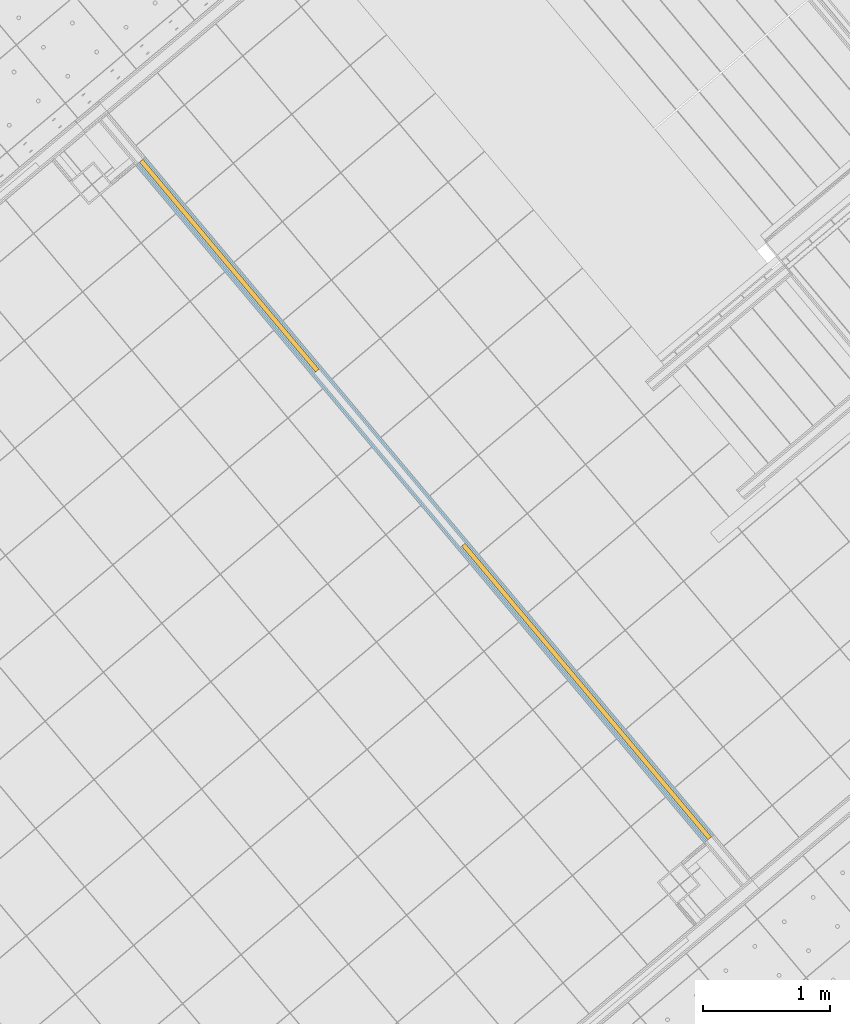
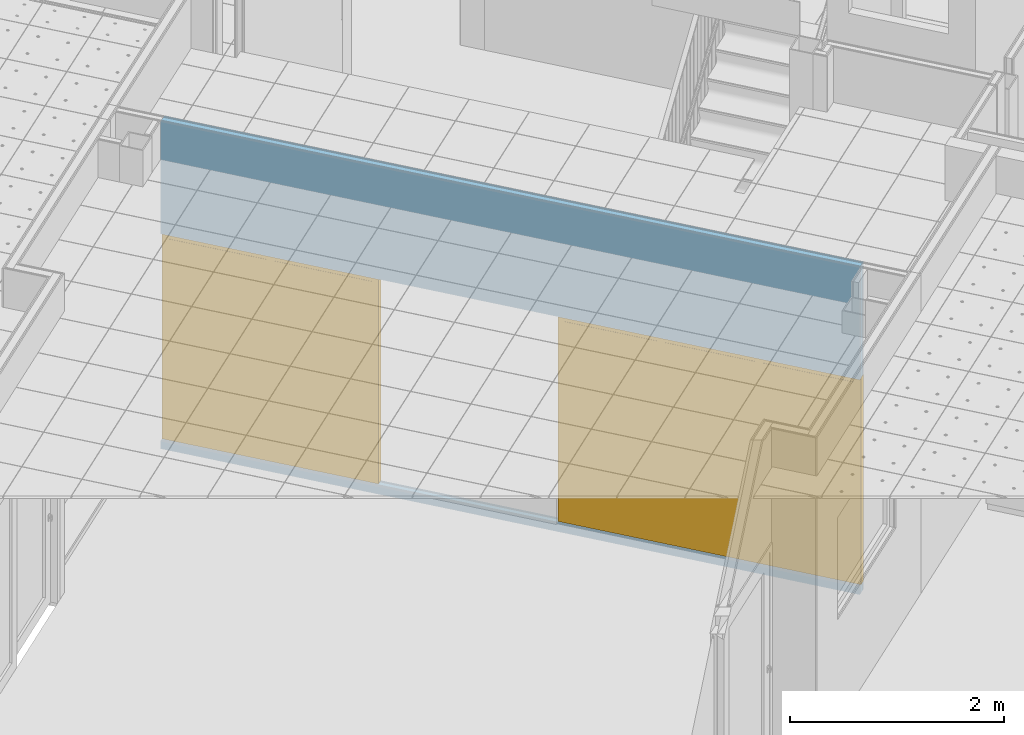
# One storey, part 61 of 338: 2 windows, 3 openings, 1 element without a shape of its own, plus 5 elements that do not belong to this part.
"""IFC2X3 building model written with IfcOpenShell, lengths in millimetres."""

from ifc_helpers import new_model, entity, si_unit, converted_unit, derived_unit, money_unit, direction, frame, origin_with_axes, place, context, subcontext, project, spatial, open_shell, faceted_brep, surface_model, material, type_object, element, fill, aggregate, save


model = new_model("IFC2X3")

# Units and contexts
model_context = context("Model", 3, precision=0.01, world=origin_with_axes(), true_north=direction((0.0, 1.0)))
plan_context = context("Plan", 3, precision=0.01, world=origin_with_axes(), true_north=direction((0.0, 1.0)))
body_context = subcontext(model_context, "Body", "Model", "MODEL_VIEW")
ifc_project = project(units=[si_unit("LENGTHUNIT", "METRE", prefix="MILLI"), si_unit("AREAUNIT", "SQUARE_METRE"), si_unit("VOLUMEUNIT", "CUBIC_METRE"), converted_unit("PLANEANGLEUNIT", "DEGREE", entity("IfcPlaneAngleMeasure", 0.0174532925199), si_unit("PLANEANGLEUNIT", "RADIAN"), dimensions=[0, 0, 0, 0, 0, 0, 0]), money_unit("EUR"), converted_unit("TIMEUNIT", "Year", entity("IfcTimeMeasure", 31556926.0), si_unit("TIMEUNIT", "SECOND"), dimensions=[0, 0, 1, 0, 0, 0, 0]), si_unit("MASSUNIT", "GRAM", prefix="KILO"), si_unit("THERMODYNAMICTEMPERATUREUNIT", "DEGREE_CELSIUS"), si_unit("LUMINOUSINTENSITYUNIT", "LUMEN"), si_unit("ENERGYUNIT", "JOULE", prefix="MEGA"), derived_unit("THERMALCONDUCTANCEUNIT", [(si_unit("POWERUNIT", "WATT"), 1), (si_unit("LENGTHUNIT", "METRE"), -1), (si_unit("THERMODYNAMICTEMPERATUREUNIT", "KELVIN"), -1)]), derived_unit("SPECIFICHEATCAPACITYUNIT", [(si_unit("ENERGYUNIT", "JOULE"), 1), (si_unit("MASSUNIT", "GRAM", prefix="KILO"), -1), (si_unit("THERMODYNAMICTEMPERATUREUNIT", "KELVIN"), -1)]), derived_unit("MASSDENSITYUNIT", [(si_unit("MASSUNIT", "GRAM", prefix="KILO"), 1), (si_unit("VOLUMEUNIT", "CUBIC_METRE"), -1)])], contexts=[model_context, plan_context])

# Site, building, storey
site_placement = place(None, origin_with_axes())
site = spatial("IfcSite", under=ifc_project, at=site_placement, Name="Fortuinstraat Woensdrecht", CompositionType="ELEMENT")
building_placement = place(site_placement, origin_with_axes())
building = spatial("IfcBuilding", under=site, at=building_placement, Name="IKC Fortuna", CompositionType="ELEMENT")
storey_placement = place(building_placement, origin_with_axes())
storey = spatial("IfcBuildingStorey", under=building, at=storey_placement, Name="00 begane grond", CompositionType="ELEMENT", Elevation=0.0)

# Window
window_style_1 = type_object("IfcWindowStyle", Name="Rnx horizontaal 25", ConstructionType="NOTDEFINED", OperationType="DOUBLE_PANEL_VERTICAL", ParameterTakesPrecedence=False, Sizeable=False)
wall_placement = place(storey_placement, frame((19252.4628668, -2704.22469748, 1360.0), z_axis=(0.0, 0.0, 1.0), x_axis=(-0.642787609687, 0.766044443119, 0.0)))
opening_1_placement = place(wall_placement, frame((5886.46009833, 0.0, 90.0), z_axis=(0.0, 0.0, 1.0), x_axis=(1.0, 0.0, 0.0)))
window_1_placement = place(opening_1_placement, frame((1078.84079083, 0.0, 0.0), z_axis=(0.0, 0.0, 1.0), x_axis=(-1.0, 0.0, 0.0)))
window_1 = element("IfcWindow", 1, at=window_1_placement, inside=storey, type_object=window_style_1, Name="32_Raam_h.09", ObjectType="WINDOW", OverallHeight=2367.0, OverallWidth=2157.68, context=body_context, shape_type="SurfaceModel", body=[
    faceted_brep([(67.0, -62.0, 2300.0), (67.0, 0.0, 2300.0), (0.0, 0.0, 2300.0), (0.0, -62.0, 2300.0), (67.0, -62.0, 67.0), (67.0, 0.0, 67.0), (0.0, 0.0, 67.0), (0.0, -62.0, 67.0)], [[[0, 1, 2, 3]], [[4, 5, 1, 0]], [[1, 5, 6, 2]], [[3, 2, 6, 7]], [[0, 3, 7, 4]], [[7, 6, 5, 4]]]),
    faceted_brep([(2090.68158166, -62.0, 67.0), (2090.68158166, 0.0, 67.0), (2157.68158166, 0.0, 67.0), (2157.68158166, -62.0, 67.0), (2090.68158166, -62.0, 2300.0), (2090.68158166, 0.0, 2300.0), (2157.68158166, 0.0, 2300.0), (2157.68158166, -62.0, 2300.0)], [[[0, 1, 2, 3]], [[4, 5, 1, 0]], [[1, 5, 6, 2]], [[3, 2, 6, 7]], [[0, 3, 7, 4]], [[7, 6, 5, 4]]]),
    faceted_brep([(2090.68158166, -62.0, 2300.0), (2090.68158166, 0.0, 2300.0), (2157.68158166, 0.0, 2300.0), (2157.68158166, -62.0, 2300.0), (1112.34079083, -62.0, 2300.0), (1112.34079083, 0.0, 2300.0), (1045.34079083, 0.0, 2300.0), (67.0, 0.0, 2300.0), (0.0, 0.0, 2300.0), (0.0, 0.0, 2367.0), (2157.68158166, 0.0, 2367.0), (2157.68158166, -62.0, 2367.0), (0.0, -62.0, 2367.0), (0.0, -62.0, 2300.0), (67.0, -62.0, 2300.0), (1045.34079083, -62.0, 2300.0)], [[[0, 1, 2, 3]], [[4, 5, 1, 0]], [[1, 5, 6, 7, 8, 9, 10, 2]], [[3, 2, 10, 11]], [[0, 3, 11, 12, 13, 14, 15, 4]], [[15, 6, 5, 4]], [[14, 7, 6, 15]], [[13, 8, 7, 14]], [[12, 9, 8, 13]], [[11, 10, 9, 12]]]),
    faceted_brep([(1112.34079083, -62.0, 67.0), (1112.34079083, 0.0, 67.0), (1045.34079083, 0.0, 67.0), (1045.34079083, -62.0, 67.0), (2090.68158166, -62.0, 67.0), (2090.68158166, 0.0, 67.0), (2157.68158166, 0.0, 67.0), (2157.68158166, 0.0, 0.0), (0.0, 0.0, 0.0), (0.0, 0.0, 67.0), (67.0, 0.0, 67.0), (67.0, -62.0, 67.0), (0.0, -62.0, 67.0), (0.0, -62.0, 0.0), (2157.68158166, -62.0, 0.0), (2157.68158166, -62.0, 67.0)], [[[0, 1, 2, 3]], [[4, 5, 1, 0]], [[1, 5, 6, 7, 8, 9, 10, 2]], [[3, 2, 10, 11]], [[0, 3, 11, 12, 13, 14, 15, 4]], [[15, 6, 5, 4]], [[14, 7, 6, 15]], [[13, 8, 7, 14]], [[12, 9, 8, 13]], [[11, 10, 9, 12]]]),
    faceted_brep([(1112.34079083, -62.0, 67.0), (1112.34079083, 0.0, 67.0), (1112.34079083, 0.0, 2300.0), (1112.34079083, -62.0, 2300.0), (1045.34079083, -62.0, 67.0), (1045.34079083, 0.0, 67.0), (1045.34079083, 0.0, 2300.0), (1045.34079083, -62.0, 2300.0)], [[[0, 1, 2, 3]], [[4, 5, 1, 0]], [[1, 5, 6, 2]], [[3, 2, 6, 7]], [[0, 3, 7, 4]], [[7, 6, 5, 4]]]),
    surface_model("IfcShellBasedSurfaceModel", [(67.0, -64.0, 67.0), (1045.34079083, -64.0, 67.0), (1045.34079083, -64.0, 2300.0), (67.0, -64.0, 2300.0)], [open_shell([[[0, 1, 2, 3]]])]),
    surface_model("IfcShellBasedSurfaceModel", [(67.0, -44.0, 67.0), (67.0, -44.0, 2300.0), (1045.34079083, -44.0, 2300.0), (1045.34079083, -44.0, 67.0)], [open_shell([[[0, 1, 2, 3]]])]),
    surface_model("IfcShellBasedSurfaceModel", [(1112.34079083, -64.0, 67.0), (2090.68158166, -64.0, 67.0), (2090.68158166, -64.0, 2300.0), (1112.34079083, -64.0, 2300.0)], [open_shell([[[0, 1, 2, 3]]])]),
    surface_model("IfcShellBasedSurfaceModel", [(1112.34079083, -44.0, 67.0), (1112.34079083, -44.0, 2300.0), (2090.68158166, -44.0, 2300.0), (2090.68158166, -44.0, 67.0)], [open_shell([[[0, 1, 2, 3]]])]),
])

window_style_2 = type_object("IfcWindowStyle", Name="Rnx horizontaal 25", ConstructionType="NOTDEFINED", OperationType="TRIPLE_PANEL_VERTICAL", ParameterTakesPrecedence=False, Sizeable=False)
opening_2_placement = place(wall_placement, frame((1508.80965375, 0.0, 90.0), z_axis=(0.0, 0.0, 1.0), x_axis=(1.0, 0.0, 0.0)))
window_2_placement = place(opening_2_placement, frame((1508.80965375, 0.0, 0.0), z_axis=(0.0, 0.0, 1.0), x_axis=(-1.0, 0.0, 0.0)))
window_2 = element("IfcWindow", 2, at=window_2_placement, inside=storey, type_object=window_style_2, Name="32_Raam_h.07", ObjectType="WINDOW", OverallHeight=2367.0, OverallWidth=3017.62, context=body_context, shape_type="SurfaceModel", body=[
    faceted_brep([(67.0, -62.0, 2300.0), (67.0, 0.0, 2300.0), (0.0, 0.0, 2300.0), (0.0, -62.0, 2300.0), (67.0, -62.0, 67.0), (67.0, 0.0, 67.0), (0.0, 0.0, 67.0), (0.0, -62.0, 67.0)], [[[0, 1, 2, 3]], [[4, 5, 1, 0]], [[1, 5, 6, 2]], [[3, 2, 6, 7]], [[0, 3, 7, 4]], [[7, 6, 5, 4]]]),
    faceted_brep([(2950.6193075, -62.0, 67.0), (2950.6193075, 0.0, 67.0), (3017.6193075, 0.0, 67.0), (3017.6193075, -62.0, 67.0), (2950.6193075, -62.0, 2300.0), (2950.6193075, 0.0, 2300.0), (3017.6193075, 0.0, 2300.0), (3017.6193075, -62.0, 2300.0)], [[[0, 1, 2, 3]], [[4, 5, 1, 0]], [[1, 5, 6, 2]], [[3, 2, 6, 7]], [[0, 3, 7, 4]], [[7, 6, 5, 4]]]),
    faceted_brep([(2950.6193075, -62.0, 2300.0), (2950.6193075, 0.0, 2300.0), (3017.6193075, 0.0, 2300.0), (3017.6193075, -62.0, 2300.0), (2034.07953833, -62.0, 2300.0), (2034.07953833, 0.0, 2300.0), (1967.07953833, 0.0, 2300.0), (1050.53976917, 0.0, 2300.0), (983.539769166, 0.0, 2300.0), (67.0, 0.0, 2300.0), (0.0, 0.0, 2300.0), (0.0, 0.0, 2367.0), (3017.6193075, 0.0, 2367.0), (3017.6193075, -62.0, 2367.0), (0.0, -62.0, 2367.0), (0.0, -62.0, 2300.0), (67.0, -62.0, 2300.0), (983.539769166, -62.0, 2300.0), (1050.53976917, -62.0, 2300.0), (1967.07953833, -62.0, 2300.0)], [[[0, 1, 2, 3]], [[4, 5, 1, 0]], [[1, 5, 6, 7, 8, 9, 10, 11, 12, 2]], [[3, 2, 12, 13]], [[0, 3, 13, 14, 15, 16, 17, 18, 19, 4]], [[19, 6, 5, 4]], [[18, 7, 6, 19]], [[17, 8, 7, 18]], [[16, 9, 8, 17]], [[15, 10, 9, 16]], [[14, 11, 10, 15]], [[13, 12, 11, 14]]]),
    faceted_brep([(2034.07953833, -62.0, 67.0), (2034.07953833, 0.0, 67.0), (1967.07953833, 0.0, 67.0), (1967.07953833, -62.0, 67.0), (2950.6193075, -62.0, 67.0), (2950.6193075, 0.0, 67.0), (3017.6193075, 0.0, 67.0), (3017.6193075, 0.0, 0.0), (0.0, 0.0, 0.0), (0.0, 0.0, 67.0), (67.0, 0.0, 67.0), (983.539769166, 0.0, 67.0), (1050.53976917, 0.0, 67.0), (1050.53976917, -62.0, 67.0), (983.539769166, -62.0, 67.0), (67.0, -62.0, 67.0), (0.0, -62.0, 67.0), (0.0, -62.0, 0.0), (3017.6193075, -62.0, 0.0), (3017.6193075, -62.0, 67.0)], [[[0, 1, 2, 3]], [[4, 5, 1, 0]], [[1, 5, 6, 7, 8, 9, 10, 11, 12, 2]], [[3, 2, 12, 13]], [[0, 3, 13, 14, 15, 16, 17, 18, 19, 4]], [[19, 6, 5, 4]], [[18, 7, 6, 19]], [[17, 8, 7, 18]], [[16, 9, 8, 17]], [[15, 10, 9, 16]], [[14, 11, 10, 15]], [[13, 12, 11, 14]]]),
    faceted_brep([(1050.53976917, -62.0, 67.0), (1050.53976917, 0.0, 67.0), (1050.53976917, 0.0, 2300.0), (1050.53976917, -62.0, 2300.0), (983.539769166, -62.0, 67.0), (983.539769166, 0.0, 67.0), (983.539769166, 0.0, 2300.0), (983.539769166, -62.0, 2300.0)], [[[0, 1, 2, 3]], [[4, 5, 1, 0]], [[1, 5, 6, 2]], [[3, 2, 6, 7]], [[0, 3, 7, 4]], [[7, 6, 5, 4]]]),
    faceted_brep([(2034.07953833, -62.0, 67.0), (2034.07953833, 0.0, 67.0), (2034.07953833, 0.0, 2300.0), (2034.07953833, -62.0, 2300.0), (1967.07953833, -62.0, 67.0), (1967.07953833, 0.0, 67.0), (1967.07953833, 0.0, 2300.0), (1967.07953833, -62.0, 2300.0)], [[[0, 1, 2, 3]], [[4, 5, 1, 0]], [[1, 5, 6, 2]], [[3, 2, 6, 7]], [[0, 3, 7, 4]], [[7, 6, 5, 4]]]),
    surface_model("IfcShellBasedSurfaceModel", [(67.0, -64.0, 67.0), (983.539769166, -64.0, 67.0), (983.539769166, -64.0, 2300.0), (67.0, -64.0, 2300.0)], [open_shell([[[0, 1, 2, 3]]])]),
    surface_model("IfcShellBasedSurfaceModel", [(67.0, -44.0, 67.0), (67.0, -44.0, 2300.0), (983.539769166, -44.0, 2300.0), (983.539769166, -44.0, 67.0)], [open_shell([[[0, 1, 2, 3]]])]),
    surface_model("IfcShellBasedSurfaceModel", [(1050.53976917, -64.0, 67.0), (1967.07953833, -64.0, 67.0), (1967.07953833, -64.0, 2300.0), (1050.53976917, -64.0, 2300.0)], [open_shell([[[0, 1, 2, 3]]])]),
    surface_model("IfcShellBasedSurfaceModel", [(1050.53976917, -44.0, 67.0), (1050.53976917, -44.0, 2300.0), (1967.07953833, -44.0, 2300.0), (1967.07953833, -44.0, 67.0)], [open_shell([[[0, 1, 2, 3]]])]),
    surface_model("IfcShellBasedSurfaceModel", [(2034.07953833, -64.0, 67.0), (2950.6193075, -64.0, 67.0), (2950.6193075, -64.0, 2300.0), (2034.07953833, -64.0, 2300.0)], [open_shell([[[0, 1, 2, 3]]])]),
    surface_model("IfcShellBasedSurfaceModel", [(2034.07953833, -44.0, 67.0), (2034.07953833, -44.0, 2300.0), (2950.6193075, -44.0, 2300.0), (2950.6193075, -44.0, 67.0)], [open_shell([[[0, 1, 2, 3]]])]),
])

# Wall, opening
wall_type = type_object("IfcWallType", Name="MS100 2.50.2A 100", PredefinedType="NOTDEFINED")
wall = element("IfcWall", 3, at=wall_placement, inside=storey, type_object=wall_type, Name="22_Wand_Binnenwand")
opening_1 = element("IfcOpeningElement", 4, at=opening_1_placement, cuts=wall, Name="32_Raam_h.09", context=body_context, shape_type="Brep", body=[
    faceted_brep([(-1078.84079083, 100.0, 2367.0), (-1078.84079083, 100.0, 0.0), (-1078.84079083, -200.0, 0.0), (-1078.84079083, -200.0, 2367.0), (1078.84079083, 100.0, 2367.0), (1078.84079083, 100.0, 0.0), (1078.84079083, -200.0, 0.0), (1078.84079083, -200.0, 2367.0)], [[[0, 1, 2, 3]], [[0, 4, 5, 1]], [[1, 5, 6, 2]], [[3, 2, 6, 7]], [[4, 0, 3, 7]], [[5, 4, 7, 6]]]),
])

fill(opening_1, window_1)

# Opening
opening_2 = element("IfcOpeningElement", 5, at=opening_2_placement, cuts=wall, Name="32_Raam_h.07", context=body_context, shape_type="Brep", body=[
    faceted_brep([(-1508.80965375, 100.0, 2367.0), (-1508.80965375, 100.0, 0.0), (-1508.80965375, -200.0, 0.0), (-1508.80965375, -200.0, 2367.0), (1508.80965375, 100.0, 2367.0), (1508.80965375, 100.0, 0.0), (1508.80965375, -200.0, 0.0), (1508.80965375, -200.0, 2367.0)], [[[0, 1, 2, 3]], [[0, 4, 5, 1]], [[1, 5, 6, 2]], [[3, 2, 6, 7]], [[4, 0, 3, 7]], [[5, 4, 7, 6]]]),
])

fill(opening_2, window_2)

opening_3_placement = place(wall_placement, frame((3912.6193075, 0.0, 90.0), z_axis=(0.0, 0.0, 1.0), x_axis=(1.0, 0.0, 0.0)))
element("IfcOpeningElement", 6, at=opening_3_placement, cuts=wall, Name="32_Deur_h.08", context=body_context, shape_type="Brep", body=[
    faceted_brep([(895.0, -100.0, 2367.0), (895.0, -100.0, 0.0), (895.0, 214.0, 0.0), (895.0, 214.0, 2367.0), (-895.0, -100.0, 2367.0), (-895.0, -100.0, 0.0), (-895.0, 214.0, 0.0), (-895.0, 214.0, 2367.0)], [[[0, 1, 2, 3]], [[0, 4, 5, 1]], [[1, 5, 6, 2]], [[3, 2, 6, 7]], [[4, 0, 3, 7]], [[5, 4, 7, 6]]]),
])

# Building element part
ifc_material_1 = material(Name="Gipsplaat")
building_element_part_1_placement = place(wall_placement, origin_with_axes())
building_element_part_1 = element("IfcBuildingElementPart", 7, at=building_element_part_1_placement, material=ifc_material_1, Name="Gipsplaat", context=body_context, shape_type="Brep", body=[
    faceted_brep([(4807.6193075, 87.5, 90.0), (3017.6193075, 87.5, 90.0), (0.0, 87.5, 90.0), (0.0, 87.5, 0.0), (6965.30088915, 87.5, 0.0), (6965.30088915, 87.5, 90.0), (4807.6193075, 100.0, 90.0), (3017.6193075, 100.0, 90.0), (0.0, 100.0, 90.0), (6965.30088915, 100.0, 90.0), (0.0, 100.0, 0.0), (6965.30088915, 100.0, 0.0)], [[[0, 1, 2, 3, 4, 5]], [[6, 7, 8, 2, 1, 0, 5, 9]], [[8, 10, 3, 2]], [[4, 3, 10, 11]], [[4, 11, 9, 5]], [[7, 6, 9, 11, 10, 8]]]),
    faceted_brep([(3017.6193075, 100.0, 2457.0), (4807.6193075, 100.0, 2457.0), (6965.30088915, 100.0, 2457.0), (6965.30088915, 87.5, 2457.0), (4807.6193075, 87.5, 2457.0), (3017.6193075, 87.5, 2457.0), (0.0, 87.5, 2457.0), (0.0, 100.0, 2457.0), (0.0, 100.0, 3740.0), (6965.30088915, 100.0, 3740.0), (6965.30088915, 87.5, 3740.0), (0.0, 87.5, 3740.0)], [[[0, 1, 2, 3, 4, 5, 6, 7]], [[1, 0, 7, 8, 9, 2]], [[9, 10, 3, 2]], [[5, 4, 3, 10, 11, 6]], [[6, 11, 8, 7]], [[9, 8, 11, 10]]]),
])

building_element_part_2_placement = place(wall_placement, origin_with_axes())
building_element_part_2 = element("IfcBuildingElementPart", 8, at=building_element_part_2_placement, material=ifc_material_1, Name="Gipsplaat", context=body_context, shape_type="Brep", body=[
    faceted_brep([(4807.6193075, 75.0, 90.0), (3017.6193075, 75.0, 90.0), (0.0, 75.0, 90.0), (0.0, 75.0, 0.0), (6965.30088915, 75.0, 0.0), (6965.30088915, 75.0, 90.0), (4807.6193075, 87.5, 90.0), (3017.6193075, 87.5, 90.0), (0.0, 87.5, 90.0), (6965.30088915, 87.5, 90.0), (0.0, 87.5, 0.0), (6965.30088915, 87.5, 0.0)], [[[0, 1, 2, 3, 4, 5]], [[6, 7, 8, 2, 1, 0, 5, 9]], [[8, 10, 3, 2]], [[4, 3, 10, 11]], [[4, 11, 9, 5]], [[7, 6, 9, 11, 10, 8]]]),
    faceted_brep([(3017.6193075, 87.5, 2457.0), (4807.6193075, 87.5, 2457.0), (6965.30088915, 87.5, 2457.0), (6965.30088915, 75.0, 2457.0), (4807.6193075, 75.0, 2457.0), (3017.6193075, 75.0, 2457.0), (0.0, 75.0, 2457.0), (0.0, 87.5, 2457.0), (0.0, 87.5, 3740.0), (6965.30088915, 87.5, 3740.0), (6965.30088915, 75.0, 3740.0), (0.0, 75.0, 3740.0)], [[[0, 1, 2, 3, 4, 5, 6, 7]], [[1, 0, 7, 8, 9, 2]], [[9, 10, 3, 2]], [[5, 4, 3, 10, 11, 6]], [[6, 11, 8, 7]], [[9, 8, 11, 10]]]),
])

ifc_material_2 = material(Name="Isolatie - Steenwol LSW")
building_element_part_3_placement = place(wall_placement, origin_with_axes())
building_element_part_3 = element("IfcBuildingElementPart", 9, at=building_element_part_3_placement, material=ifc_material_2, Name="Isolatie - Steenwol LSW", context=body_context, shape_type="Brep", body=[
    faceted_brep([(4807.6193075, 25.0, 90.0), (3017.6193075, 25.0, 90.0), (0.0, 25.0, 90.0), (0.0, 25.0, 0.0), (6965.30088915, 25.0, 0.0), (6965.30088915, 25.0, 90.0), (4807.6193075, 75.0, 90.0), (3017.6193075, 75.0, 90.0), (0.0, 75.0, 90.0), (6965.30088915, 75.0, 90.0), (0.0, 75.0, 0.0), (6965.30088915, 75.0, 0.0)], [[[0, 1, 2, 3, 4, 5]], [[6, 7, 8, 2, 1, 0, 5, 9]], [[8, 10, 3, 2]], [[4, 3, 10, 11]], [[4, 11, 9, 5]], [[7, 6, 9, 11, 10, 8]]]),
    faceted_brep([(3017.6193075, 75.0, 2457.0), (4807.6193075, 75.0, 2457.0), (6965.30088915, 75.0, 2457.0), (6965.30088915, 25.0, 2457.0), (4807.6193075, 25.0, 2457.0), (3017.6193075, 25.0, 2457.0), (0.0, 25.0, 2457.0), (0.0, 75.0, 2457.0), (0.0, 75.0, 3740.0), (6965.30088915, 75.0, 3740.0), (6965.30088915, 25.0, 3740.0), (0.0, 25.0, 3740.0)], [[[0, 1, 2, 3, 4, 5, 6, 7]], [[1, 0, 7, 8, 9, 2]], [[9, 10, 3, 2]], [[5, 4, 3, 10, 11, 6]], [[6, 11, 8, 7]], [[9, 8, 11, 10]]]),
])

building_element_part_4_placement = place(wall_placement, origin_with_axes())
building_element_part_4 = element("IfcBuildingElementPart", 10, at=building_element_part_4_placement, material=ifc_material_1, Name="Gipsplaat", context=body_context, shape_type="Brep", body=[
    faceted_brep([(4807.6193075, 12.5, 90.0), (3017.6193075, 12.5, 90.0), (0.0, 12.5, 90.0), (0.0, 12.5, 0.0), (6965.30088915, 12.5, 0.0), (6965.30088915, 12.5, 90.0), (4807.6193075, 25.0, 90.0), (3017.6193075, 25.0, 90.0), (0.0, 25.0, 90.0), (6965.30088915, 25.0, 90.0), (0.0, 25.0, 0.0), (6965.30088915, 25.0, 0.0)], [[[0, 1, 2, 3, 4, 5]], [[6, 7, 8, 2, 1, 0, 5, 9]], [[8, 10, 3, 2]], [[4, 3, 10, 11]], [[4, 11, 9, 5]], [[7, 6, 9, 11, 10, 8]]]),
    faceted_brep([(3017.6193075, 25.0, 2457.0), (4807.6193075, 25.0, 2457.0), (6965.30088915, 25.0, 2457.0), (6965.30088915, 12.5, 2457.0), (4807.6193075, 12.5, 2457.0), (3017.6193075, 12.5, 2457.0), (0.0, 12.5, 2457.0), (0.0, 25.0, 2457.0), (0.0, 25.0, 3740.0), (6965.30088915, 25.0, 3740.0), (6965.30088915, 12.5, 3740.0), (0.0, 12.5, 3740.0)], [[[0, 1, 2, 3, 4, 5, 6, 7]], [[1, 0, 7, 8, 9, 2]], [[9, 10, 3, 2]], [[5, 4, 3, 10, 11, 6]], [[6, 11, 8, 7]], [[9, 8, 11, 10]]]),
])

building_element_part_5_placement = place(wall_placement, origin_with_axes())
building_element_part_5 = element("IfcBuildingElementPart", 11, at=building_element_part_5_placement, material=ifc_material_1, Name="Gipsplaat", context=body_context, shape_type="Brep", body=[
    faceted_brep([(4807.6193075, 0.0, 90.0), (3017.6193075, 0.0, 90.0), (0.0, 0.0, 90.0), (0.0, 0.0, 0.0), (6965.30088915, 0.0, 0.0), (6965.30088915, 0.0, 90.0), (4807.6193075, 12.5, 90.0), (3017.6193075, 12.5, 90.0), (0.0, 12.5, 90.0), (6965.30088915, 12.5, 90.0), (0.0, 12.5, 0.0), (6965.30088915, 12.5, 0.0)], [[[0, 1, 2, 3, 4, 5]], [[6, 7, 8, 2, 1, 0, 5, 9]], [[8, 10, 3, 2]], [[4, 3, 10, 11]], [[4, 11, 9, 5]], [[7, 6, 9, 11, 10, 8]]]),
    faceted_brep([(3017.6193075, 12.5, 2457.0), (4807.6193075, 12.5, 2457.0), (6965.30088915, 12.5, 2457.0), (6965.30088915, 0.0, 2457.0), (4807.6193075, 0.0, 2457.0), (3017.6193075, 0.0, 2457.0), (0.0, 0.0, 2457.0), (0.0, 12.5, 2457.0), (0.0, 12.5, 3740.0), (6965.30088915, 12.5, 3740.0), (6965.30088915, 0.0, 3740.0), (0.0, 0.0, 3740.0)], [[[0, 1, 2, 3, 4, 5, 6, 7]], [[1, 0, 7, 8, 9, 2]], [[9, 10, 3, 2]], [[5, 4, 3, 10, 11, 6]], [[6, 11, 8, 7]], [[9, 8, 11, 10]]]),
])

aggregate(wall, [building_element_part_1, building_element_part_2, building_element_part_3, building_element_part_4, building_element_part_5])

save(model, "model.ifc")
